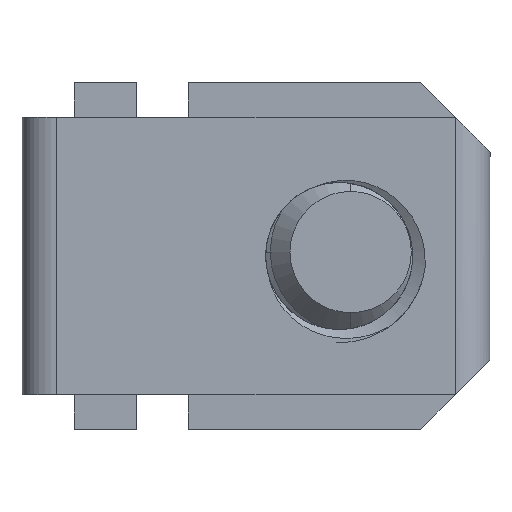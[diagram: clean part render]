
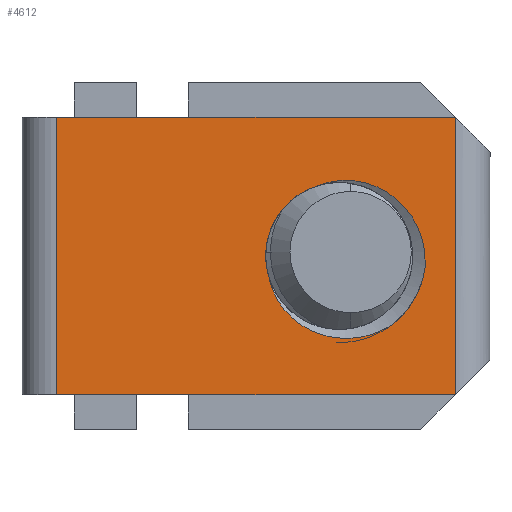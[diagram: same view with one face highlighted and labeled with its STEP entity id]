
A CAD part, front view. The second image highlights one B-rep face of the part: STEP entity #4612.
In plain terms, the highlighted planar face has unit normal (0, -1, 0) as drawn and (1, 0, 0) by its records, which use the part's own axes.
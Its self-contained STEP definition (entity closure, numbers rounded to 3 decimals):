
#93 = CARTESIAN_POINT ( 'NONE',  ( 4.8, -2.344, -4.107 ) ) ;
#333 = VERTEX_POINT ( 'NONE', #7976 ) ;
#436 = CARTESIAN_POINT ( 'NONE',  ( 4.8, 0.369, -2.256 ) ) ;
#490 = DIRECTION ( 'NONE',  ( 0., 0., 1. ) ) ;
#515 = CARTESIAN_POINT ( 'NONE',  ( 4.8, 1.264, -2.641 ) ) ;
#544 = EDGE_CURVE ( 'NONE', #939, #559, #7818, .T. ) ;
#547 = CARTESIAN_POINT ( 'NONE',  ( 4.8, -0.469, -2.277 ) ) ;
#559 = VERTEX_POINT ( 'NONE', #6197 ) ;
#571 = CARTESIAN_POINT ( 'NONE',  ( 4.8, 1.913, -5.619 ) ) ;
#713 = CARTESIAN_POINT ( 'NONE',  ( 4.8, -2.334, -5.047 ) ) ;
#761 = CARTESIAN_POINT ( 'NONE',  ( 4.8, -0.299, -6.832 ) ) ;
#777 = CARTESIAN_POINT ( 'NONE',  ( 4.8, -1.954, -5.908 ) ) ;
#807 = CARTESIAN_POINT ( 'NONE',  ( 4.8, 0., -4.35 ) ) ;
#808 = CARTESIAN_POINT ( 'NONE',  ( 4.8, -2.149, -5.584 ) ) ;
#888 = VECTOR ( 'NONE', #1916, 1000. ) ;
#902 = CARTESIAN_POINT ( 'NONE',  ( 4.8, 4., 3.8 ) ) ;
#939 = VERTEX_POINT ( 'NONE', #761 ) ;
#1014 = DIRECTION ( 'NONE',  ( 0., 1., 0. ) ) ;
#1336 = CARTESIAN_POINT ( 'NONE',  ( 4.8, -1.309, -2.583 ) ) ;
#1358 = CARTESIAN_POINT ( 'NONE',  ( 4.8, 2.193, -4.527 ) ) ;
#1388 = CARTESIAN_POINT ( 'NONE',  ( 4.8, -1.954, -5.908 ) ) ;
#1417 = DIRECTION ( 'NONE',  ( 0., 0., 1. ) ) ;
#1594 = ORIENTED_EDGE ( 'NONE', *, *, #2745, .T. ) ;
#1642 = ORIENTED_EDGE ( 'NONE', *, *, #7137, .F. ) ;
#1759 = CARTESIAN_POINT ( 'NONE',  ( 4.8, 1.15, -2.562 ) ) ;
#1785 = CARTESIAN_POINT ( 'NONE',  ( 4.8, 1.578, -6.081 ) ) ;
#1814 = CARTESIAN_POINT ( 'NONE',  ( 4.8, 2.068, -5.275 ) ) ;
#1837 = CARTESIAN_POINT ( 'NONE',  ( 4.8, 0.98, -6.547 ) ) ;
#1916 = DIRECTION ( 'NONE',  ( 0., 0., -1. ) ) ;
#1951 = CARTESIAN_POINT ( 'NONE',  ( 4.8, -2.086, -3.397 ) ) ;
#1980 = CARTESIAN_POINT ( 'NONE',  ( 4.8, -2.302, -3.924 ) ) ;
#1996 = CARTESIAN_POINT ( 'NONE',  ( 4.8, 4., 1.5 ) ) ;
#2007 = VERTEX_POINT ( 'NONE', #3404 ) ;
#2021 = FACE_BOUND ( 'NONE', #7758, .T. ) ;
#2057 = EDGE_CURVE ( 'NONE', #2007, #333, #5897, .T. ) ;
#2114 = LINE ( 'NONE', #1996, #5231 ) ;
#2173 = ORIENTED_EDGE ( 'NONE', *, *, #2528, .T. ) ;
#2268 = VECTOR ( 'NONE', #3196, 1000. ) ;
#2371 = CARTESIAN_POINT ( 'NONE',  ( 4.8, -4., 3.8 ) ) ;
#2401 = CARTESIAN_POINT ( 'NONE',  ( 4.8, 0.452, -6.76 ) ) ;
#2405 = CARTESIAN_POINT ( 'NONE',  ( 4.8, 0.903, -2.426 ) ) ;
#2446 = VERTEX_POINT ( 'NONE', #777 ) ;
#2472 = EDGE_CURVE ( 'NONE', #939, #2446, #4469, .T. ) ;
#2528 = EDGE_CURVE ( 'NONE', #6015, #2007, #7147, .T. ) ;
#2574 = CARTESIAN_POINT ( 'NONE',  ( 4.8, -1.751, -2.938 ) ) ;
#2651 = ORIENTED_EDGE ( 'NONE', *, *, #7326, .T. ) ;
#2690 = CARTESIAN_POINT ( 'NONE',  ( 4.8, -2.06, -5.75 ) ) ;
#2745 = EDGE_CURVE ( 'NONE', #333, #4402, #2114, .T. ) ;
#2768 = EDGE_LOOP ( 'NONE', ( #1594, #2651, #2173, #7760 ) ) ;
#2957 = CARTESIAN_POINT ( 'NONE',  ( 4.8, 5., -8.7 ) ) ;
#3080 = CARTESIAN_POINT ( 'NONE',  ( 4.8, 1.812, -5.783 ) ) ;
#3196 = DIRECTION ( 'NONE',  ( 0., -1., 0. ) ) ;
#3277 = CARTESIAN_POINT ( 'NONE',  ( 4.8, -1.877, -3.083 ) ) ;
#3342 = LINE ( 'NONE', #4545, #2268 ) ;
#3349 = B_SPLINE_CURVE_WITH_KNOTS ( 'NONE', 3,
 ( #7915, #5470, #6109, #5440, #7833, #515, #1759, #2405, #6731, #4174, #436, #7937, #7858, #6084, #547, #5391 ),
 .UNSPECIFIED., .F., .F.,
 ( 4, 2, 2, 2, 2, 2, 2, 4 ),
 ( 0., 0.001, 0.001, 0.002, 0.002, 0.003, 0.003, 0.003 ),
 .UNSPECIFIED. ) ;
#3404 = CARTESIAN_POINT ( 'NONE',  ( 4.8, -4., -7.7 ) ) ;
#3459 = AXIS2_PLACEMENT_3D ( 'NONE', #807, #5128, #1417 ) ;
#3700 = CARTESIAN_POINT ( 'NONE',  ( 4.8, 2.187, -4.716 ) ) ;
#3791 = CARTESIAN_POINT ( 'NONE',  ( 4.8, -0.792, -2.354 ) ) ;
#3819 = CARTESIAN_POINT ( 'NONE',  ( 4.8, 2.044, -3.782 ) ) ;
#3823 = CARTESIAN_POINT ( 'NONE',  ( 4.8, -2.383, -4.674 ) ) ;
#4039 = B_SPLINE_CURVE_WITH_KNOTS ( 'NONE', 3,
 ( #6006, #3791, #6981, #1336, #5130, #2574, #3277, #1951, #5159, #1980, #93, #7527, #3823, #713, #5653, #808, #2690, #1388 ),
 .UNSPECIFIED., .F., .F.,
 ( 4, 2, 2, 2, 2, 2, 2, 2, 4 ),
 ( 0., 0.001, 0.001, 0.002, 0.002, 0.003, 0.003, 0.004, 0.005 ),
 .UNSPECIFIED. ) ;
#4174 = CARTESIAN_POINT ( 'NONE',  ( 4.8, 0.507, -2.286 ) ) ;
#4341 = CARTESIAN_POINT ( 'NONE',  ( 4.8, 2.125, -5.091 ) ) ;
#4402 = VERTEX_POINT ( 'NONE', #902 ) ;
#4459 = CARTESIAN_POINT ( 'NONE',  ( 4.8, 2.112, -3.961 ) ) ;
#4469 = CIRCLE ( 'NONE', #3459, 2.5 ) ;
#4489 = CARTESIAN_POINT ( 'NONE',  ( 4.8, -4., 3.3 ) ) ;
#4545 = CARTESIAN_POINT ( 'NONE',  ( 4.8, 5., 3.8 ) ) ;
#4612 = ADVANCED_FACE ( 'NONE', ( #2021, #6849 ), #6032, .F. ) ;
#4727 = CARTESIAN_POINT ( 'NONE',  ( 4.8, 5., -7.7 ) ) ;
#4875 = CARTESIAN_POINT ( 'NONE',  ( 4.8, 1.444, -6.214 ) ) ;
#5128 = DIRECTION ( 'NONE',  ( -1., 0., 0. ) ) ;
#5130 = CARTESIAN_POINT ( 'NONE',  ( 4.8, -1.468, -2.69 ) ) ;
#5159 = CARTESIAN_POINT ( 'NONE',  ( 4.8, -2.172, -3.567 ) ) ;
#5231 = VECTOR ( 'NONE', #6328, 1000. ) ;
#5391 = CARTESIAN_POINT ( 'NONE',  ( 4.8, -0.605, -2.317 ) ) ;
#5414 = VECTOR ( 'NONE', #1014, 1000. ) ;
#5440 = CARTESIAN_POINT ( 'NONE',  ( 4.8, 1.577, -2.925 ) ) ;
#5450 = ORIENTED_EDGE ( 'NONE', *, *, #7283, .F. ) ;
#5470 = CARTESIAN_POINT ( 'NONE',  ( 4.8, 1.968, -3.509 ) ) ;
#5520 = CARTESIAN_POINT ( 'NONE',  ( 4.8, 0.081, -6.829 ) ) ;
#5544 = CARTESIAN_POINT ( 'NONE',  ( 4.8, -0.299, -6.832 ) ) ;
#5653 = CARTESIAN_POINT ( 'NONE',  ( 4.8, -2.286, -5.233 ) ) ;
#5741 = CARTESIAN_POINT ( 'NONE',  ( 4.8, -0.605, -2.317 ) ) ;
#5897 = LINE ( 'NONE', #4727, #5414 ) ;
#6006 = CARTESIAN_POINT ( 'NONE',  ( 4.8, -0.605, -2.317 ) ) ;
#6015 = VERTEX_POINT ( 'NONE', #2371 ) ;
#6032 = PLANE ( 'NONE',  #7352 ) ;
#6084 = CARTESIAN_POINT ( 'NONE',  ( 4.8, -0.33, -2.25 ) ) ;
#6106 = CARTESIAN_POINT ( 'NONE',  ( 4.8, -0.108, -6.841 ) ) ;
#6109 = CARTESIAN_POINT ( 'NONE',  ( 4.8, 1.838, -3.254 ) ) ;
#6197 = CARTESIAN_POINT ( 'NONE',  ( 4.8, 2.044, -3.782 ) ) ;
#6220 = CARTESIAN_POINT ( 'NONE',  ( 4.8, 0.636, -6.702 ) ) ;
#6250 = CARTESIAN_POINT ( 'NONE',  ( 4.8, 2.155, -4.148 ) ) ;
#6328 = DIRECTION ( 'NONE',  ( 0., 0., 1. ) ) ;
#6714 = VERTEX_POINT ( 'NONE', #5741 ) ;
#6731 = CARTESIAN_POINT ( 'NONE',  ( 4.8, 0.773, -2.37 ) ) ;
#6835 = CARTESIAN_POINT ( 'NONE',  ( 4.8, 1.143, -6.449 ) ) ;
#6849 = FACE_OUTER_BOUND ( 'NONE', #2768, .T. ) ;
#6981 = CARTESIAN_POINT ( 'NONE',  ( 4.8, -0.97, -2.415 ) ) ;
#7137 = EDGE_CURVE ( 'NONE', #559, #6714, #3349, .T. ) ;
#7147 = LINE ( 'NONE', #4489, #888 ) ;
#7191 = ORIENTED_EDGE ( 'NONE', *, *, #2472, .T. ) ;
#7283 = EDGE_CURVE ( 'NONE', #6714, #2446, #4039, .T. ) ;
#7326 = EDGE_CURVE ( 'NONE', #4402, #6015, #3342, .T. ) ;
#7352 = AXIS2_PLACEMENT_3D ( 'NONE', #2957, #7890, #490 ) ;
#7527 = CARTESIAN_POINT ( 'NONE',  ( 4.8, -2.385, -4.483 ) ) ;
#7593 = ORIENTED_EDGE ( 'NONE', *, *, #544, .F. ) ;
#7758 = EDGE_LOOP ( 'NONE', ( #7191, #5450, #1642, #7593 ) ) ;
#7760 = ORIENTED_EDGE ( 'NONE', *, *, #2057, .T. ) ;
#7818 = B_SPLINE_CURVE_WITH_KNOTS ( 'NONE', 3,
 ( #5544, #6106, #5520, #2401, #6220, #1837, #6835, #4875, #1785, #3080, #571, #1814, #4341, #3700, #1358, #6250, #4459, #3819 ),
 .UNSPECIFIED., .F., .F.,
 ( 4, 2, 2, 2, 2, 2, 2, 2, 4 ),
 ( 0., 0.001, 0.001, 0.002, 0.002, 0.003, 0.003, 0.004, 0.005 ),
 .UNSPECIFIED. ) ;
#7833 = CARTESIAN_POINT ( 'NONE',  ( 4.8, 1.478, -2.822 ) ) ;
#7858 = CARTESIAN_POINT ( 'NONE',  ( 4.8, -0.052, -2.225 ) ) ;
#7890 = DIRECTION ( 'NONE',  ( -1., 0., 0. ) ) ;
#7915 = CARTESIAN_POINT ( 'NONE',  ( 4.8, 2.044, -3.782 ) ) ;
#7937 = CARTESIAN_POINT ( 'NONE',  ( 4.8, 0.088, -2.226 ) ) ;
#7976 = CARTESIAN_POINT ( 'NONE',  ( 4.8, 4., -7.7 ) ) ;
